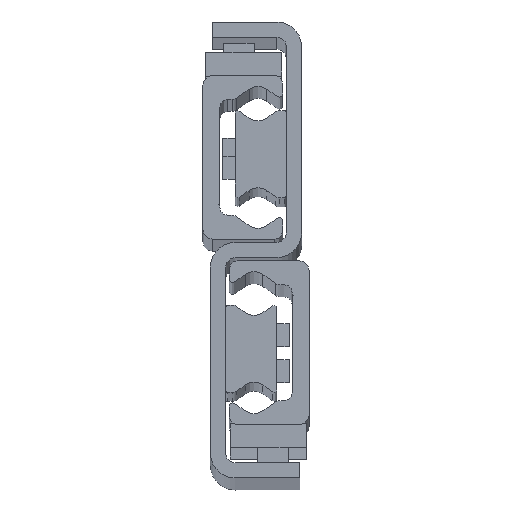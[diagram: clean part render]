
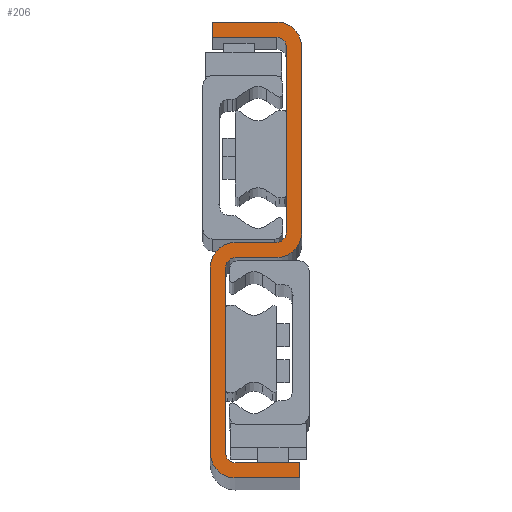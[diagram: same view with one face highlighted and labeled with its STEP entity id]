
A CAD part, top view. The second image highlights one B-rep face of the part: STEP entity #206.
In plain terms, the highlighted planar face has unit normal (0, 0, 1).
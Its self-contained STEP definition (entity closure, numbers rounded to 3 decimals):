
#206=ADVANCED_FACE('',(#761),#762,.T.);
#761=FACE_OUTER_BOUND('',#1683,.T.);
#762=PLANE('',#1684);
#1683=EDGE_LOOP('',(#3325,#3326,#3327,#3328,#3329,#3330,#3331,#3332,#3333,#3334,#3335,#3336,#3337,#3338,#3339,#3340,#3341,#3342,#3343,#3344));
#1684=AXIS2_PLACEMENT_3D('',#3345,#3346,#3347);
#3325=ORIENTED_EDGE('',*,*,#5905,.F.);
#3326=ORIENTED_EDGE('',*,*,#5963,.F.);
#3327=ORIENTED_EDGE('',*,*,#5960,.F.);
#3328=ORIENTED_EDGE('',*,*,#5957,.F.);
#3329=ORIENTED_EDGE('',*,*,#5954,.F.);
#3330=ORIENTED_EDGE('',*,*,#5951,.F.);
#3331=ORIENTED_EDGE('',*,*,#5948,.F.);
#3332=ORIENTED_EDGE('',*,*,#5945,.F.);
#3333=ORIENTED_EDGE('',*,*,#5942,.F.);
#3334=ORIENTED_EDGE('',*,*,#5939,.F.);
#3335=ORIENTED_EDGE('',*,*,#5936,.F.);
#3336=ORIENTED_EDGE('',*,*,#5933,.F.);
#3337=ORIENTED_EDGE('',*,*,#5930,.F.);
#3338=ORIENTED_EDGE('',*,*,#5927,.F.);
#3339=ORIENTED_EDGE('',*,*,#5924,.F.);
#3340=ORIENTED_EDGE('',*,*,#5921,.F.);
#3341=ORIENTED_EDGE('',*,*,#5918,.F.);
#3342=ORIENTED_EDGE('',*,*,#5915,.F.);
#3343=ORIENTED_EDGE('',*,*,#5912,.F.);
#3344=ORIENTED_EDGE('',*,*,#5909,.F.);
#3345=CARTESIAN_POINT('',(-14.,26.,2738.0));
#3346=DIRECTION('',(0.0,0.0,1.0));
#3347=DIRECTION('',(1.0,0.0,0.0));
#5905=EDGE_CURVE('',#7143,#7144,#7145,.T.);
#5909=EDGE_CURVE('',#7144,#7151,#7152,.T.);
#5912=EDGE_CURVE('',#7151,#7156,#7157,.T.);
#5915=EDGE_CURVE('',#7156,#7161,#7162,.T.);
#5918=EDGE_CURVE('',#7161,#7166,#7167,.T.);
#5921=EDGE_CURVE('',#7166,#7171,#7172,.T.);
#5924=EDGE_CURVE('',#7171,#7176,#7177,.T.);
#5927=EDGE_CURVE('',#7176,#7181,#7182,.T.);
#5930=EDGE_CURVE('',#7181,#7186,#7187,.T.);
#5933=EDGE_CURVE('',#7186,#7191,#7192,.T.);
#5936=EDGE_CURVE('',#7191,#7196,#7197,.T.);
#5939=EDGE_CURVE('',#7196,#7201,#7202,.T.);
#5942=EDGE_CURVE('',#7201,#7206,#7207,.T.);
#5945=EDGE_CURVE('',#7206,#7211,#7212,.T.);
#5948=EDGE_CURVE('',#7211,#7216,#7217,.T.);
#5951=EDGE_CURVE('',#7216,#7221,#7222,.T.);
#5954=EDGE_CURVE('',#7221,#7226,#7227,.T.);
#5957=EDGE_CURVE('',#7226,#7231,#7232,.T.);
#5960=EDGE_CURVE('',#7231,#7236,#7237,.T.);
#5963=EDGE_CURVE('',#7236,#7143,#7241,.T.);
#7143=VERTEX_POINT('',#9065);
#7144=VERTEX_POINT('',#9066);
#7145=LINE('',#9067,#9068);
#7151=VERTEX_POINT('',#9077);
#7152=CIRCLE('',#9078,2.5);
#7156=VERTEX_POINT('',#9083);
#7157=LINE('',#9084,#9085);
#7161=VERTEX_POINT('',#9091);
#7162=CIRCLE('',#9092,2.5);
#7166=VERTEX_POINT('',#9097);
#7167=LINE('',#9098,#9099);
#7171=VERTEX_POINT('',#9105);
#7172=LINE('',#9106,#9107);
#7176=VERTEX_POINT('',#9113);
#7177=LINE('',#9114,#9115);
#7181=VERTEX_POINT('',#9121);
#7182=CIRCLE('',#9122,6.5);
#7186=VERTEX_POINT('',#9127);
#7187=LINE('',#9128,#9129);
#7191=VERTEX_POINT('',#9135);
#7192=CIRCLE('',#9136,6.5);
#7196=VERTEX_POINT('',#9141);
#7197=LINE('',#9142,#9143);
#7201=VERTEX_POINT('',#9149);
#7202=CIRCLE('',#9150,2.5);
#7206=VERTEX_POINT('',#9155);
#7207=LINE('',#9156,#9157);
#7211=VERTEX_POINT('',#9163);
#7212=CIRCLE('',#9164,2.5);
#7216=VERTEX_POINT('',#9169);
#7217=LINE('',#9170,#9171);
#7221=VERTEX_POINT('',#9177);
#7222=LINE('',#9178,#9179);
#7226=VERTEX_POINT('',#9185);
#7227=LINE('',#9186,#9187);
#7231=VERTEX_POINT('',#9193);
#7232=CIRCLE('',#9194,6.5);
#7236=VERTEX_POINT('',#9199);
#7237=LINE('',#9200,#9201);
#7241=CIRCLE('',#9207,6.5);
#9065=CARTESIAN_POINT('',(-8.5,24.,2738.0));
#9066=CARTESIAN_POINT('',(-19.5,24.,2738.0));
#9067=CARTESIAN_POINT('',(-8.5,24.,2738.0));
#9068=VECTOR('',#11181,1.0);
#9077=CARTESIAN_POINT('',(-22.,21.5,2738.0));
#9078=AXIS2_PLACEMENT_3D('',#11185,#11186,#11187);
#9083=CARTESIAN_POINT('',(-22.,-27.5,2738.0));
#9084=CARTESIAN_POINT('',(-22.,-27.5,2738.0));
#9085=VECTOR('',#11192,1.0);
#9091=CARTESIAN_POINT('',(-19.5,-30.,2738.0));
#9092=AXIS2_PLACEMENT_3D('',#11195,#11196,#11197);
#9097=CARTESIAN_POINT('',(-2.5,-30.,2738.0));
#9098=CARTESIAN_POINT('',(-19.5,-30.,2738.0));
#9099=VECTOR('',#11202,1.0);
#9105=CARTESIAN_POINT('',(-2.5,-34.,2738.0));
#9106=CARTESIAN_POINT('',(-2.5,-34.,2738.0));
#9107=VECTOR('',#11205,1.0);
#9113=CARTESIAN_POINT('',(-19.5,-34.,2738.0));
#9114=CARTESIAN_POINT('',(-19.5,-34.,2738.0));
#9115=VECTOR('',#11208,1.0);
#9121=CARTESIAN_POINT('',(-26.,-27.5,2738.0));
#9122=AXIS2_PLACEMENT_3D('',#11211,#11212,#11213);
#9127=CARTESIAN_POINT('',(-26.,21.5,2738.0));
#9128=CARTESIAN_POINT('',(-26.,21.5,2738.0));
#9129=VECTOR('',#11218,1.0);
#9135=CARTESIAN_POINT('',(-19.5,28.,2738.0));
#9136=AXIS2_PLACEMENT_3D('',#11221,#11222,#11223);
#9141=CARTESIAN_POINT('',(-8.5,28.,2738.0));
#9142=CARTESIAN_POINT('',(-8.5,28.,2738.0));
#9143=VECTOR('',#11228,1.0);
#9149=CARTESIAN_POINT('',(-6.,30.5,2738.0));
#9150=AXIS2_PLACEMENT_3D('',#11231,#11232,#11233);
#9155=CARTESIAN_POINT('',(-6.,79.5,2738.0));
#9156=CARTESIAN_POINT('',(-6.,79.5,2738.0));
#9157=VECTOR('',#11238,1.0);
#9163=CARTESIAN_POINT('',(-8.5,82.,2738.0));
#9164=AXIS2_PLACEMENT_3D('',#11241,#11242,#11243);
#9169=CARTESIAN_POINT('',(-25.5,82.,2738.0));
#9170=CARTESIAN_POINT('',(-25.5,82.,2738.0));
#9171=VECTOR('',#11248,1.0);
#9177=CARTESIAN_POINT('',(-25.5,86.,2738.0));
#9178=CARTESIAN_POINT('',(-25.5,86.,2738.0));
#9179=VECTOR('',#11251,1.0);
#9185=CARTESIAN_POINT('',(-8.5,86.,2738.0));
#9186=CARTESIAN_POINT('',(-25.5,86.,2738.0));
#9187=VECTOR('',#11254,1.0);
#9193=CARTESIAN_POINT('',(-2.,79.5,2738.0));
#9194=AXIS2_PLACEMENT_3D('',#11257,#11258,#11259);
#9199=CARTESIAN_POINT('',(-2.,30.5,2738.0));
#9200=CARTESIAN_POINT('',(-2.,79.5,2738.0));
#9201=VECTOR('',#11264,1.0);
#9207=AXIS2_PLACEMENT_3D('',#11267,#11268,#11269);
#11181=DIRECTION('',(-1.0,0.,0.0));
#11185=CARTESIAN_POINT('',(-19.5,21.5,2738.0));
#11186=DIRECTION('',(0.0,0.0,1.0));
#11187=DIRECTION('',(1.0,0.0,0.0));
#11192=DIRECTION('',(-0.0,-1.0,-0.0));
#11195=CARTESIAN_POINT('',(-19.5,-27.5,2738.0));
#11196=DIRECTION('',(0.0,0.0,1.0));
#11197=DIRECTION('',(1.0,0.0,0.0));
#11202=DIRECTION('',(1.,0.,0.0));
#11205=DIRECTION('',(-0.0,-1.0,-0.0));
#11208=DIRECTION('',(-1.,0.,-0.0));
#11211=CARTESIAN_POINT('',(-19.5,-27.5,2738.0));
#11212=DIRECTION('',(0.0,0.0,-1.0));
#11213=DIRECTION('',(1.0,0.0,0.0));
#11218=DIRECTION('',(0.0,1.0,0.0));
#11221=CARTESIAN_POINT('',(-19.5,21.5,2738.0));
#11222=DIRECTION('',(0.0,0.0,-1.0));
#11223=DIRECTION('',(1.0,0.0,0.0));
#11228=DIRECTION('',(1.0,0.,0.0));
#11231=CARTESIAN_POINT('',(-8.5,30.5,2738.0));
#11232=DIRECTION('',(0.0,0.0,1.0));
#11233=DIRECTION('',(1.0,0.0,0.0));
#11238=DIRECTION('',(0.0,1.0,0.0));
#11241=CARTESIAN_POINT('',(-8.5,79.5,2738.0));
#11242=DIRECTION('',(0.0,0.0,1.0));
#11243=DIRECTION('',(1.0,0.0,0.0));
#11248=DIRECTION('',(-1.,0.,0.0));
#11251=DIRECTION('',(0.0,1.0,0.0));
#11254=DIRECTION('',(1.,0.,0.0));
#11257=CARTESIAN_POINT('',(-8.5,79.5,2738.0));
#11258=DIRECTION('',(0.0,0.0,-1.0));
#11259=DIRECTION('',(1.0,0.0,0.0));
#11264=DIRECTION('',(0.,-1.0,0.0));
#11267=CARTESIAN_POINT('',(-8.5,30.5,2738.0));
#11268=DIRECTION('',(0.0,0.0,-1.0));
#11269=DIRECTION('',(1.0,0.0,0.0));
